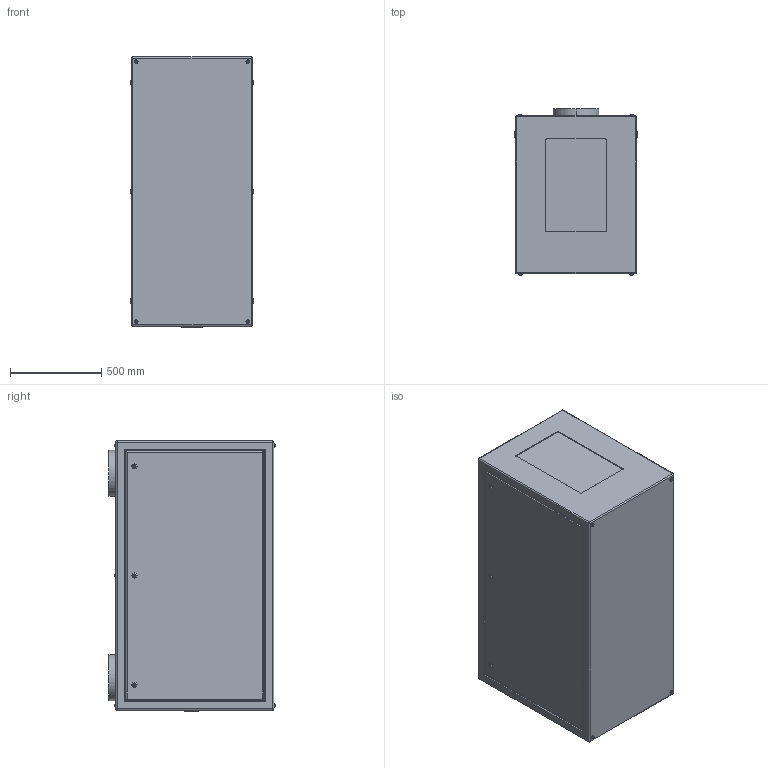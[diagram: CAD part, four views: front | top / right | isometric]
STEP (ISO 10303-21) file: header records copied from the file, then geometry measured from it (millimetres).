
FILE_DESCRIPTION (( 'STEP AP214' ), '1' );
FILE_NAME ('Tacit 56.314.P R08.STEP', '2022-09-11T22:39:14', ( '' ), ( '' ), 'SwSTEP 2.0', 'SolidWorks 2020', '' );
FILE_SCHEMA (( 'AUTOMOTIVE_DESIGN' ));
Length unit declared in the file: inch
Products named in the file (1): Tacit 56.314.P R08
Bounding box: 673.1 x 908.96 x 1478.28 mm (x, y, z)
Volume: 838471746 mm3; surface area: 6031396.2 mm2
Topology: 1 solids, 7 shells, 401 faces, 892 edges, 560 vertices
Faces by surface type: plane 177, cylinder 168, torus 48, sphere 8
Entity records: 15011 total; most frequent: CARTESIAN_POINT 2382, DIRECTION 1972, ORIENTED_EDGE 1768, EDGE_CURVE 884, AXIS2_PLACEMENT_3D 782, VERTEX_POINT 560, EDGE_LOOP 464, VECTOR 408
